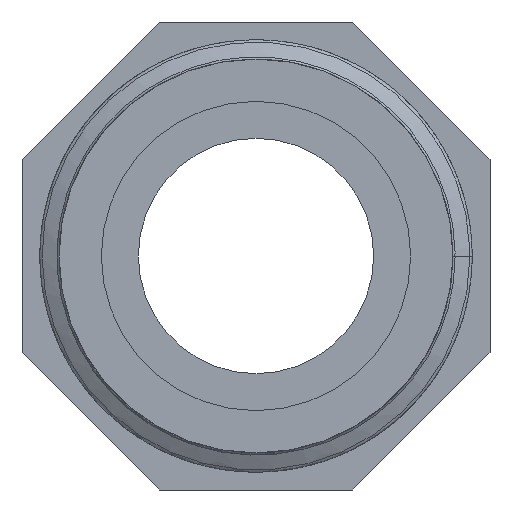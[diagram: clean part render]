
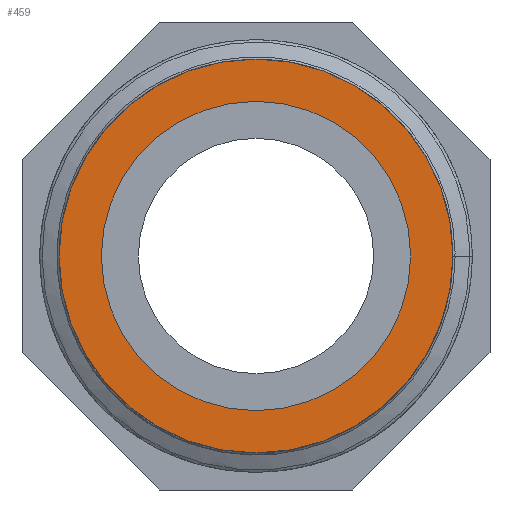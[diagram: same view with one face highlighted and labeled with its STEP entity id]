
A CAD part, front view. The second image highlights one B-rep face of the part: STEP entity #459.
In plain terms, the highlighted planar face has unit normal (0, -1, 0).
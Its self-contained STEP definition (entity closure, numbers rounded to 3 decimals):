
#21=FACE_BOUND('',#100,.T.);
#29=PLANE('',#490);
#49=CIRCLE('',#487,11.9);
#50=CIRCLE('',#489,15.146);
#68=FACE_OUTER_BOUND('',#99,.T.);
#99=EDGE_LOOP('',(#367));
#100=EDGE_LOOP('',(#368));
#208=VERTEX_POINT('',#2635);
#224=VERTEX_POINT('',#7285);
#278=EDGE_CURVE('',#224,#224,#49,.T.);
#279=EDGE_CURVE('',#208,#208,#50,.T.);
#367=ORIENTED_EDGE('',*,*,#279,.T.);
#368=ORIENTED_EDGE('',*,*,#278,.T.);
#459=ADVANCED_FACE('',(#68,#21),#29,.F.);
#487=AXIS2_PLACEMENT_3D('',#7286,#538,#539);
#489=AXIS2_PLACEMENT_3D('',#7288,#542,#543);
#490=AXIS2_PLACEMENT_3D('',#7289,#544,#545);
#538=DIRECTION('center_axis',(0.,1.,0.));
#539=DIRECTION('ref_axis',(-1.,0.,0.));
#542=DIRECTION('center_axis',(0.,-1.,0.));
#543=DIRECTION('ref_axis',(-1.,0.,0.));
#544=DIRECTION('center_axis',(0.,1.,0.));
#545=DIRECTION('ref_axis',(0.,0.,1.));
#2635=CARTESIAN_POINT('',(15.146,-25.,0.));
#7285=CARTESIAN_POINT('',(11.9,-25.,0.));
#7286=CARTESIAN_POINT('Origin',(0.,-25.,0.));
#7288=CARTESIAN_POINT('Origin',(0.,-25.,0.));
#7289=CARTESIAN_POINT('Origin',(0.,-25.,0.));
